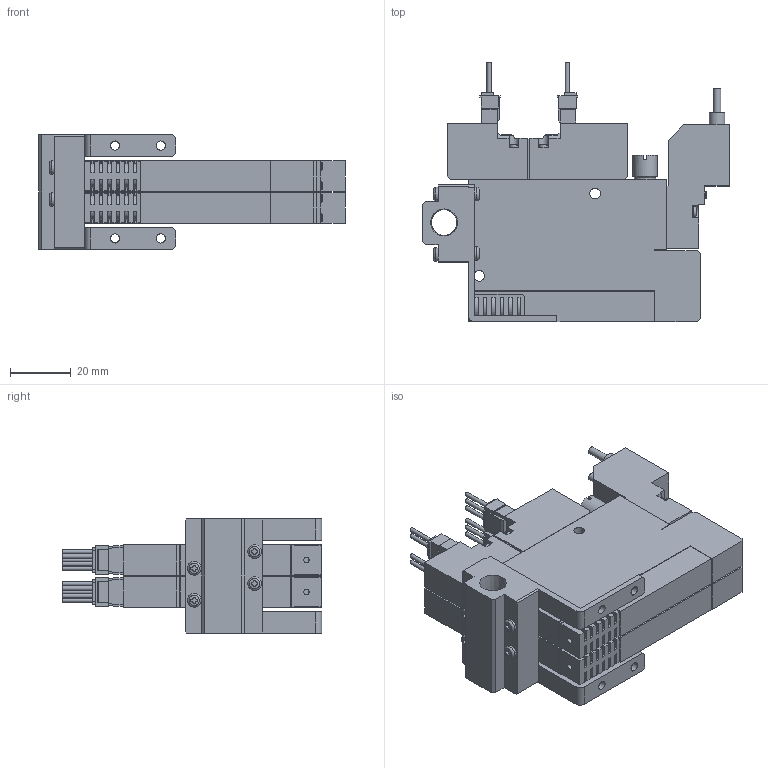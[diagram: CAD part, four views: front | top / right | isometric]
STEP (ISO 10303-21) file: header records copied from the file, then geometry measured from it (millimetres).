
FILE_DESCRIPTION(('STEP AP203'),'1');
FILE_NAME('5WS202_3D.stp','2024-09-04T09:30:15',(' '),(' '),'Spatial InterOp 3D',' ',' ');
FILE_SCHEMA(('CONFIG_CONTROL_DESIGN'));
Length unit declared in the file: millimetre
Products named in the file (5): BSC1M※※V8※5WS202; Solenoid valve W; Pressure Sensor V8; Unit-S; BaseMS20R
Assembly tree (7 placements, depth 2):
  BSC1M※※V8※5WS202
    Solenoid valve W  x2
    Pressure Sensor V8  x2
    Unit-S  x2
    BaseMS20R
Bounding box: 100.5 x 85.05 x 37.5 mm (x, y, z)
Volume: 105570.6 mm3; surface area: 44372.3 mm2
Topology: 7 solids, 7 shells, 1051 faces, 2865 edges, 1898 vertices
Faces by surface type: plane 770, cylinder 237, cone 16, torus 16, sphere 12
Full cylindrical faces by diameter (mm): 1.4 x10, 1.8 x2, 2.5 x10, 3 x12, 3.5 x12, 4 x2, 4.134 x4, 4.5 x8, 5 x2, 5.5 x2, 7 x2, 7.7 x2, 8 x2, 8.422 x1
Entity records: 19291 total; most frequent: CARTESIAN_POINT 4119, ORIENTED_EDGE 3064, DIRECTION 2983, EDGE_CURVE 1532, LINE 1125, VECTOR 1125, VERTEX_POINT 1055, AXIS2_PLACEMENT_3D 929
